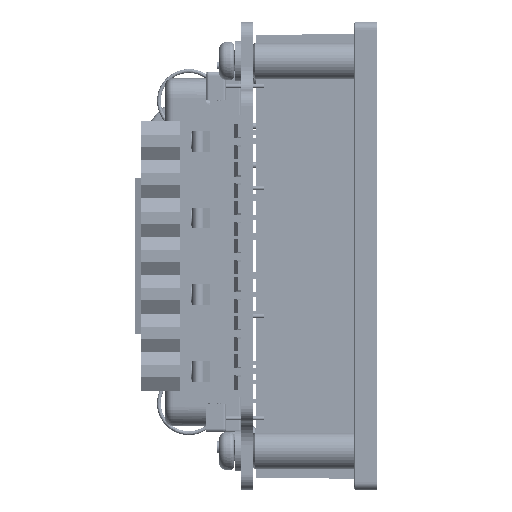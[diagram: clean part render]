
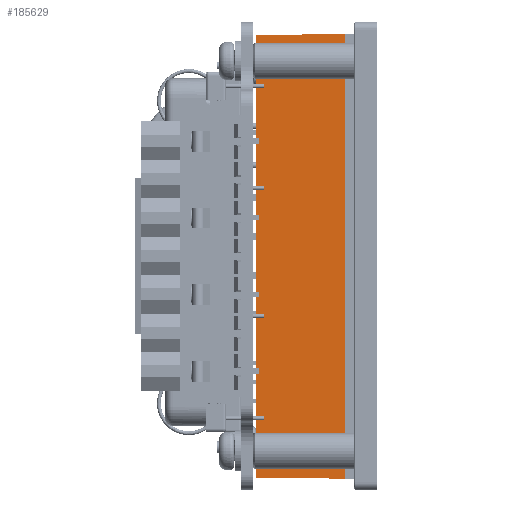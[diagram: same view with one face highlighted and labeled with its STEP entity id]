
A CAD part, left-side view. The second image highlights one B-rep face of the part: STEP entity #185629.
In plain terms, the highlighted planar face has unit normal (-1, 0.009, 0).
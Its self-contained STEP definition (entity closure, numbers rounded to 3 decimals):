
#6905 = CARTESIAN_POINT ( 'NONE',  ( -19.565, -0.57, 28.9 ) ) ;
#14450 = ORIENTED_EDGE ( 'NONE', *, *, #145770, .T. ) ;
#14503 = DIRECTION ( 'NONE',  ( 0.009, 1., 0. ) ) ;
#36417 = VECTOR ( 'NONE', #454786, 1000. ) ;
#38864 = VERTEX_POINT ( 'NONE', #461307 ) ;
#40126 = VECTOR ( 'NONE', #76450, 1000. ) ;
#63549 = ORIENTED_EDGE ( 'NONE', *, *, #422447, .F. ) ;
#76450 = DIRECTION ( 'NONE',  ( 0., 0., 1. ) ) ;
#80660 = LINE ( 'NONE', #434421, #329320 ) ;
#113661 = FACE_OUTER_BOUND ( 'NONE', #435371, .T. ) ;
#127057 = ORIENTED_EDGE ( 'NONE', *, *, #243147, .T. ) ;
#131262 = CARTESIAN_POINT ( 'NONE',  ( -19.565, -0.57, 28.9 ) ) ;
#137288 = VECTOR ( 'NONE', #190664, 1000. ) ;
#138891 = CARTESIAN_POINT ( 'NONE',  ( -19.464, 11.03, 28.799 ) ) ;
#145770 = EDGE_CURVE ( 'NONE', #340847, #155969, #368683, .T. ) ;
#150680 = LINE ( 'NONE', #6905, #137288 ) ;
#155969 = VERTEX_POINT ( 'NONE', #131262 ) ;
#182129 = DIRECTION ( 'NONE',  ( 0., 0., 1. ) ) ;
#185629 = ADVANCED_FACE ( 'NONE', ( #113661 ), #269033, .T. ) ;
#190664 = DIRECTION ( 'NONE',  ( -0.009, -1., 0.009 ) ) ;
#197862 = LINE ( 'NONE', #412461, #36417 ) ;
#243147 = EDGE_CURVE ( 'NONE', #38864, #340847, #197862, .T. ) ;
#247103 = CARTESIAN_POINT ( 'NONE',  ( -19.565, -0.57, -29. ) ) ;
#253800 = EDGE_CURVE ( 'NONE', #291192, #155969, #150680, .T. ) ;
#269033 = PLANE ( 'NONE',  #348915 ) ;
#291192 = VERTEX_POINT ( 'NONE', #138891 ) ;
#295620 = CARTESIAN_POINT ( 'NONE',  ( -19.565, -0.57, 28.9 ) ) ;
#297470 = CARTESIAN_POINT ( 'NONE',  ( -19.565, -0.57, 28.9 ) ) ;
#329320 = VECTOR ( 'NONE', #182129, 1000. ) ;
#337479 = DIRECTION ( 'NONE',  ( -1., 0.009, 0. ) ) ;
#340847 = VERTEX_POINT ( 'NONE', #247103 ) ;
#348915 = AXIS2_PLACEMENT_3D ( 'NONE', #297470, #337479, #14503 ) ;
#368683 = LINE ( 'NONE', #295620, #40126 ) ;
#382327 = ORIENTED_EDGE ( 'NONE', *, *, #253800, .F. ) ;
#412461 = CARTESIAN_POINT ( 'NONE',  ( -19.561, -0.065, -28.996 ) ) ;
#422447 = EDGE_CURVE ( 'NONE', #38864, #291192, #80660, .T. ) ;
#434421 = CARTESIAN_POINT ( 'NONE',  ( -19.464, 11.03, 28.9 ) ) ;
#435371 = EDGE_LOOP ( 'NONE', ( #14450, #382327, #63549, #127057 ) ) ;
#454786 = DIRECTION ( 'NONE',  ( -0.009, -1., -0.009 ) ) ;
#461307 = CARTESIAN_POINT ( 'NONE',  ( -19.464, 11.03, -28.899 ) ) ;
